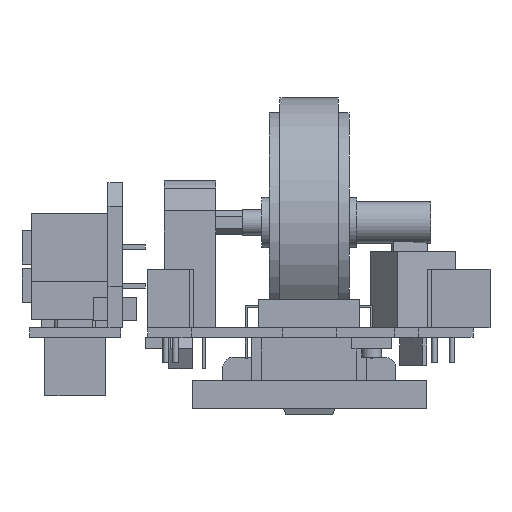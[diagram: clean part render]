
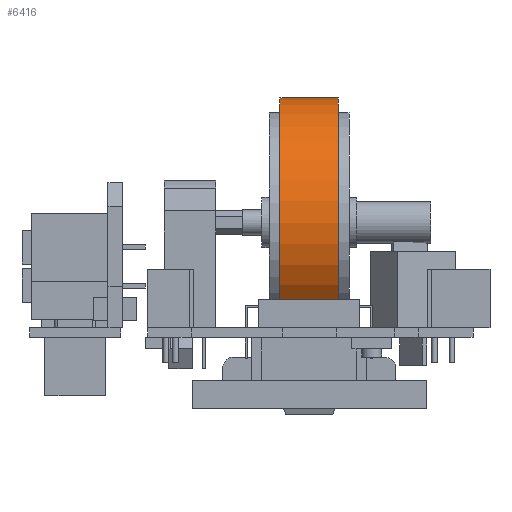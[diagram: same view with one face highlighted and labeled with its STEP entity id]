
A CAD part, front view. The second image highlights one B-rep face of the part: STEP entity #6416.
In plain terms, the highlighted cylindrical face has radius 10.675 mm (diameter 21.35 mm), a full revolution.
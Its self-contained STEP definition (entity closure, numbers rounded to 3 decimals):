
#87=CYLINDRICAL_SURFACE('',#6969,10.675);
#301=CIRCLE('',#6965,10.675);
#304=CIRCLE('',#6970,10.675);
#562=FACE_OUTER_BOUND('',#963,.T.);
#963=EDGE_LOOP('',(#5250,#5251,#5252,#5253));
#1605=LINE('',#10072,#2381);
#2381=VECTOR('',#8269,10.675);
#3034=VERTEX_POINT('',#10061);
#3037=VERTEX_POINT('',#10070);
#3804=EDGE_CURVE('',#3034,#3034,#301,.T.);
#3808=EDGE_CURVE('',#3037,#3037,#304,.T.);
#3809=EDGE_CURVE('',#3037,#3034,#1605,.T.);
#5250=ORIENTED_EDGE('',*,*,#3808,.F.);
#5251=ORIENTED_EDGE('',*,*,#3809,.T.);
#5252=ORIENTED_EDGE('',*,*,#3804,.F.);
#5253=ORIENTED_EDGE('',*,*,#3809,.F.);
#6416=ADVANCED_FACE('',(#562),#87,.T.);
#6965=AXIS2_PLACEMENT_3D('',#10062,#8256,#8257);
#6969=AXIS2_PLACEMENT_3D('',#10069,#8265,#8266);
#6970=AXIS2_PLACEMENT_3D('',#10071,#8267,#8268);
#8256=DIRECTION('center_axis',(-1.,0.,0.));
#8257=DIRECTION('ref_axis',(0.,1.,0.));
#8265=DIRECTION('center_axis',(1.,0.,0.));
#8266=DIRECTION('ref_axis',(0.,1.,0.));
#8267=DIRECTION('center_axis',(1.,0.,0.));
#8268=DIRECTION('ref_axis',(0.,1.,0.));
#8269=DIRECTION('',(-1.,0.,0.));
#10061=CARTESIAN_POINT('',(-2.5,19.525,16.4));
#10062=CARTESIAN_POINT('Origin',(-2.5,30.2,16.4));
#10069=CARTESIAN_POINT('Origin',(0.,30.2,16.4));
#10070=CARTESIAN_POINT('',(2.5,19.525,16.4));
#10071=CARTESIAN_POINT('Origin',(2.5,30.2,16.4));
#10072=CARTESIAN_POINT('',(0.,19.525,16.4));
